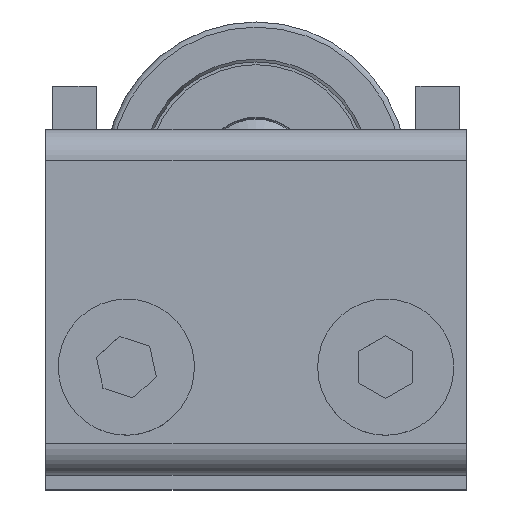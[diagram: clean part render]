
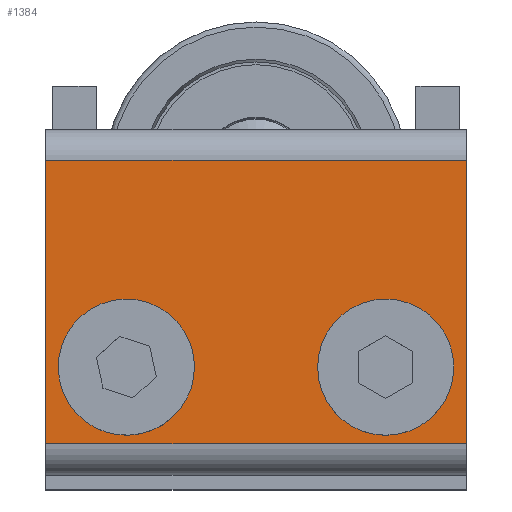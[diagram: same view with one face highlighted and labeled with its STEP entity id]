
A CAD part, top view. The second image highlights one B-rep face of the part: STEP entity #1384.
In plain terms, the highlighted planar face has unit normal (0, 0, 1) as drawn and (0, 0, -1) by its records, which use the part's own axes.
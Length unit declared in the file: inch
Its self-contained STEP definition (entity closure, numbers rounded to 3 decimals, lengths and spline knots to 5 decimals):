
#1073=DIRECTION('',(0.,-1.,0.));
#1074=VECTOR('',#1073,0.82);
#1075=CARTESIAN_POINT('',(-0.6075,0.41,-0.18));
#1076=LINE('',#1075,#1074);
#1099=DIRECTION('',(0.,-1.,0.));
#1100=VECTOR('',#1099,0.82);
#1101=CARTESIAN_POINT('',(0.6075,0.41,-0.18));
#1102=LINE('',#1101,#1100);
#1103=CARTESIAN_POINT('',(0.375,-0.188,-0.18));
#1104=DIRECTION('',(0.,0.,1.));
#1105=DIRECTION('',(1.,0.,0.));
#1106=AXIS2_PLACEMENT_3D('',#1103,#1104,#1105);
#1108=CARTESIAN_POINT('',(0.375,-0.188,-0.18));
#1109=DIRECTION('',(0.,0.,1.));
#1110=DIRECTION('',(-1.,0.,0.));
#1111=AXIS2_PLACEMENT_3D('',#1108,#1109,#1110);
#1113=CARTESIAN_POINT('',(-0.375,-0.188,-0.18));
#1114=DIRECTION('',(0.,0.,1.));
#1115=DIRECTION('',(1.,0.,0.));
#1116=AXIS2_PLACEMENT_3D('',#1113,#1114,#1115);
#1118=CARTESIAN_POINT('',(-0.375,-0.188,-0.18));
#1119=DIRECTION('',(0.,0.,1.));
#1120=DIRECTION('',(-1.,0.,0.));
#1121=AXIS2_PLACEMENT_3D('',#1118,#1119,#1120);
#1127=DIRECTION('',(-1.,0.,0.));
#1128=VECTOR('',#1127,1.215);
#1129=CARTESIAN_POINT('',(0.6075,0.41,-0.18));
#1130=LINE('',#1129,#1128);
#1131=DIRECTION('',(1.,0.,0.));
#1132=VECTOR('',#1131,1.215);
#1133=CARTESIAN_POINT('',(-0.6075,-0.41,-0.18));
#1134=LINE('',#1133,#1132);
#1219=CARTESIAN_POINT('',(-0.6075,0.41,-0.18));
#1220=CARTESIAN_POINT('',(-0.6075,-0.41,-0.18));
#1221=VERTEX_POINT('',#1219);
#1222=VERTEX_POINT('',#1220);
#1224=CARTESIAN_POINT('',(-0.5,-0.188,-0.18));
#1226=VERTEX_POINT('',#1224);
#1233=CARTESIAN_POINT('',(0.5,-0.188,-0.18));
#1234=CARTESIAN_POINT('',(0.25,-0.188,-0.18));
#1235=VERTEX_POINT('',#1233);
#1236=VERTEX_POINT('',#1234);
#1257=CARTESIAN_POINT('',(0.6075,0.41,-0.18));
#1258=CARTESIAN_POINT('',(0.6075,-0.41,-0.18));
#1259=VERTEX_POINT('',#1257);
#1260=VERTEX_POINT('',#1258);
#1271=CARTESIAN_POINT('',(-0.25,-0.188,-0.18));
#1272=VERTEX_POINT('',#1271);
#1359=CARTESIAN_POINT('',(0.6075,0.5,-0.18));
#1360=DIRECTION('',(0.,0.,1.));
#1361=DIRECTION('',(0.,-1.,0.));
#1362=AXIS2_PLACEMENT_3D('',#1359,#1360,#1361);
#1363=PLANE('',#1362);
#1364=ORIENTED_EDGE('',*,*,#1311,.F.);
#1366=ORIENTED_EDGE('',*,*,#1365,.T.);
#1367=ORIENTED_EDGE('',*,*,#1338,.T.);
#1369=ORIENTED_EDGE('',*,*,#1368,.T.);
#1370=EDGE_LOOP('',(#1364,#1366,#1367,#1369));
#1371=FACE_OUTER_BOUND('',#1370,.F.);
#1373=ORIENTED_EDGE('',*,*,#1372,.F.);
#1375=ORIENTED_EDGE('',*,*,#1374,.F.);
#1376=EDGE_LOOP('',(#1373,#1375));
#1377=FACE_BOUND('',#1376,.F.);
#1379=ORIENTED_EDGE('',*,*,#1378,.F.);
#1381=ORIENTED_EDGE('',*,*,#1380,.F.);
#1382=EDGE_LOOP('',(#1379,#1381));
#1383=FACE_BOUND('',#1382,.F.);
#1107=CIRCLE('',#1106,0.125);
#1112=CIRCLE('',#1111,0.125);
#1117=CIRCLE('',#1116,0.125);
#1122=CIRCLE('',#1121,0.125);
#1311=EDGE_CURVE('',#1259,#1260,#1102,.T.);
#1338=EDGE_CURVE('',#1221,#1222,#1076,.T.);
#1365=EDGE_CURVE('',#1259,#1221,#1130,.T.);
#1368=EDGE_CURVE('',#1222,#1260,#1134,.T.);
#1372=EDGE_CURVE('',#1235,#1236,#1107,.T.);
#1374=EDGE_CURVE('',#1236,#1235,#1112,.T.);
#1378=EDGE_CURVE('',#1272,#1226,#1117,.T.);
#1380=EDGE_CURVE('',#1226,#1272,#1122,.T.);
#1384=ADVANCED_FACE('',(#1371,#1377,#1383),#1363,.F.);
